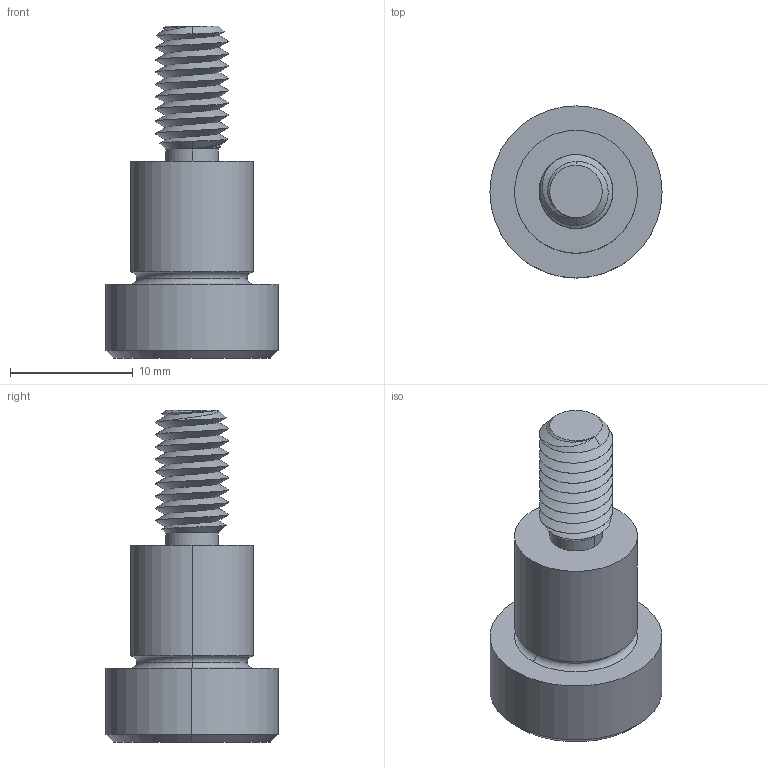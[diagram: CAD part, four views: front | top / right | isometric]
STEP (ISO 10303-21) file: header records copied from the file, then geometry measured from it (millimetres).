
FILE_DESCRIPTION (( 'STEP AP203' ), '1' );
FILE_NAME ('P0130.100-010-B6.step', '2021-11-09T21:47:43', ( '' ), ( '' ), 'SwSTEP 2.0', 'SolidWorks 2019', '' );
FILE_SCHEMA (( 'CONFIG_CONTROL_DESIGN' ));
Length unit declared in the file: millimetre
Products named in the file (1): P0130.100-010-B6
Bounding box: 14 x 14 x 27 mm (x, y, z)
Volume: 1850 mm3; surface area: 1264.7 mm2
Topology: 1 solids, 1 shells, 60 faces, 142 edges, 85 vertices
Faces by surface type: cylinder 24, plane 16, cone 14, torus 4, bspline 2
Entity records: 4245 total; most frequent: CARTESIAN_POINT 2899, ORIENTED_EDGE 280, DIRECTION 247, EDGE_CURVE 140, AXIS2_PLACEMENT_3D 99, VERTEX_POINT 85, EDGE_LOOP 63, ADVANCED_FACE 60
